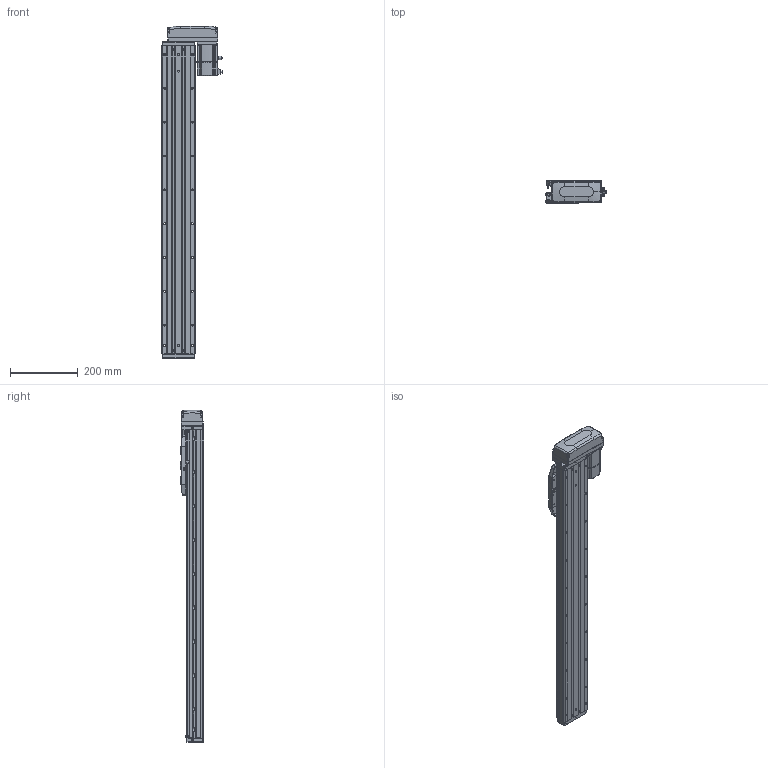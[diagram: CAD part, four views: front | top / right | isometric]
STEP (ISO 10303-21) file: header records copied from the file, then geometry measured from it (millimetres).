
FILE_DESCRIPTION (( 'STEP AP203' ), '1' );
FILE_NAME ('CTHA100-700-BL-M20-C4L.step', '2022-07-06T08:58:22', ( '微软用户' ), ( '微软中国' ), 'SwSTEP 2.0', 'SolidWorks 2020', '' );
FILE_SCHEMA (( 'CONFIG_CONTROL_DESIGN' ));
Length unit declared in the file: millimetre
Products named in the file (19): GBT 70.1-M3℅6; GBT 70.3-M3℅6; KTHA100-005; GBT70.1 M5℅16; CTHA86-015-1_CTHA86-015-2; GB¨uT 70.2-M3¡Á5_M3¡Á6; CTHA60-016; CTHA86-033; EE_SX911P_R; _X2_4E0983F1_X0_200W_1; CTHA100-700-BL-M20-C4L; CTHA60-017; CTHA100-002; CTHA60-021; CTHA100-031; KTHA100-001_910; GBT77-2000 M3×3; CTHA86-030; KTHA100-004
Assembly tree (64 placements, depth 2):
  CTHA100-700-BL-M20-C4L
    KTHA100-001_910
    KTHA100-004
    KTHA100-005
    GB¨uT 70.2-M3¡Á5_M3¡Á6  x10
    EE_SX911P_R  x3
    CTHA60-017  x3
    CTHA60-021  x2
    GBT77-2000 M3×3  x6
    GBT 70.1-M3℅6  x10
    GBT70.1 M5℅16  x14
    CTHA60-016  x2
    _X2_4E0983F1_X0_200W_1
    CTHA100-002
    CTHA100-031
    CTHA86-030  x2
    GBT 70.3-M3℅6  x4
    CTHA86-015-1_CTHA86-015-2
    CTHA86-033
Bounding box: 177.7 x 68 x 981 mm (x, y, z)
Volume: 4080640.5 mm3; surface area: 686799.1 mm2
Topology: 66 solids, 66 shells, 2709 faces, 6527 edges, 4048 vertices
Faces by surface type: plane 1416, cylinder 713, cone 357, torus 124, bspline 75, sphere 24
Entity records: 47284 total; most frequent: CARTESIAN_POINT 9259, DIRECTION 7314, ORIENTED_EDGE 7170, EDGE_CURVE 3585, AXIS2_PLACEMENT_3D 2475, LINE 2364, VECTOR 2364, VERTEX_POINT 2268
